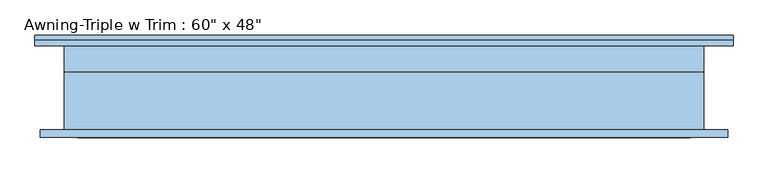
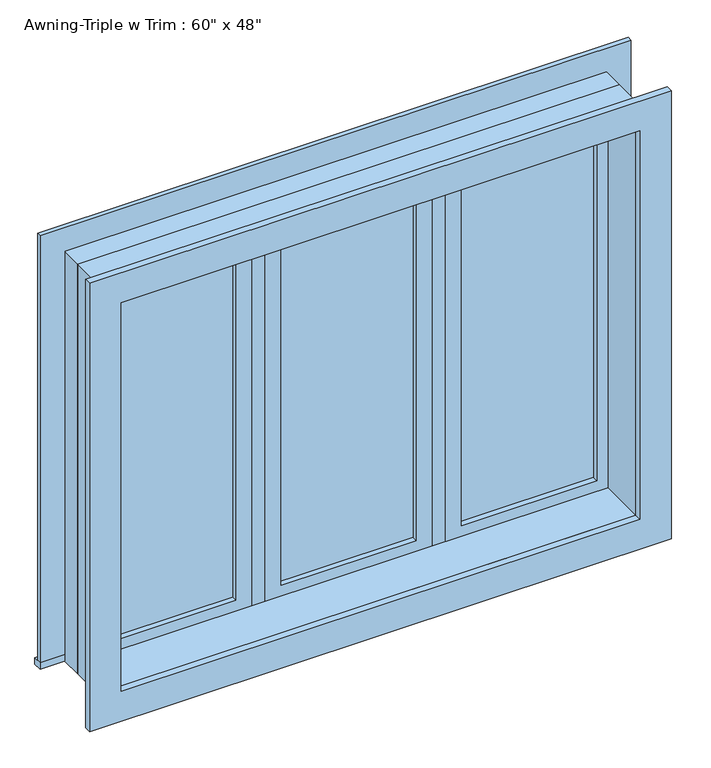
"""IFC4 building model written with IfcOpenShell, lengths in millimetres: window geometry."""

import ifcopenshell
import ifcopenshell.guid

model = None  # the IFC model being written
_history = None  # IfcOwnerHistory: only IFC2X3 demands one
_inside = {}  # id of a spatial element -> (the spatial element, [elements in it])
_under = {}  # id of a project, library or spatial element -> (it, [spatial elements below it])
_declared = {}  # id of a project -> (the project, [libraries it declares])
_typed = {}  # id of a type object -> (the type object, [elements of that type])
_made_of = {}  # id of a material, layer set ... -> (it, [elements and type objects made of it])


def new_model(schema):
    """Start an empty IFC model of exactly this schema.

    Asked for "IFC4X3", IfcOpenShell would pick the latest addendum, in which some entities
    have other attributes; the version numbers below select the first issue.
    IFC2X3 requires an IfcOwnerHistory on every rooted entity: one is made here for all.
    """
    global model, _history
    if schema == "IFC4X3":
        model = ifcopenshell.file(schema_version=(4, 3, 0, 0))
    else:
        model = ifcopenshell.file(schema=schema)
    _inside.clear()
    _under.clear()
    _declared.clear()
    _typed.clear()
    _made_of.clear()
    _history = None
    if model.schema == "IFC2X3":
        org = make("IfcOrganization", Name="unknown")
        user = make(
            "IfcPersonAndOrganization",
            ThePerson=make("IfcPerson", FamilyName="unknown"),
            TheOrganization=org,
        )
        app = make(
            "IfcApplication",
            ApplicationDeveloper=org,
            Version="unknown",
            ApplicationFullName="unknown",
            ApplicationIdentifier="unknown",
        )
        _history = make(
            "IfcOwnerHistory",
            OwningUser=user,
            OwningApplication=app,
            ChangeAction="ADDED",
            CreationDate=0,
        )
    return model


def make(cls, **values):
    """One entity of the class cls with the attributes given. An attribute that is None is left unset."""
    return model.create_entity(
        cls, **{name: value for name, value in values.items() if value is not None}
    )


def rooted(cls, **values):
    """An entity with a GlobalId (a new one), such as an element, a storey or a relation."""
    return make(cls, GlobalId=ifcopenshell.guid.new(), OwnerHistory=_history, **values)


def si_unit(unit_type, name, prefix=None):
    """IfcSIUnit, for example si_unit("LENGTHUNIT", "METRE", prefix="MILLI")."""
    return make("IfcSIUnit", UnitType=unit_type, Prefix=prefix, Name=name)


def assignment(units):
    """IfcUnitAssignment: the units of a project."""
    return None if units is None else make("IfcUnitAssignment", Units=units)


def point(xyz):
    """IfcCartesianPoint."""
    return None if xyz is None else make("IfcCartesianPoint", Coordinates=xyz)


def direction(xyz):
    """IfcDirection."""
    return None if xyz is None else make("IfcDirection", DirectionRatios=xyz)


def frame(location, z_axis=None, x_axis=None):
    """IfcAxis2Placement3D, a coordinate frame: its origin and axes. An axis left out is left unset."""
    return make(
        "IfcAxis2Placement3D",
        Location=point(location),
        Axis=direction(z_axis),
        RefDirection=direction(x_axis),
    )


def origin():
    """The frame at (0, 0, 0) with its axes left unset."""
    return frame((0.0, 0.0, 0.0))


def place(relative_to, where):
    """IfcLocalPlacement: puts the frame where relative to a parent placement (None: the world)."""
    return make(
        "IfcLocalPlacement", PlacementRelTo=relative_to, RelativePlacement=where
    )


def context(
    kind, dimensions, precision=None, world=None, true_north=None, identifier=None
):
    """IfcGeometricRepresentationContext, for example the 3D "Model" context."""
    return make(
        "IfcGeometricRepresentationContext",
        ContextIdentifier=identifier,
        ContextType=kind,
        CoordinateSpaceDimension=dimensions,
        Precision=precision,
        WorldCoordinateSystem=world,
        TrueNorth=true_north,
    )


def project(units=None, contexts=None):
    """IfcProject with its units and contexts."""
    return rooted(
        "IfcProject",
        Name="project",
        RepresentationContexts=contexts,
        UnitsInContext=assignment(units),
    )


def spatial(cls, under=None, at=None, **own):
    """A site, building, storey or space (cls), placed at a placement, below another one or the project."""
    s = rooted(cls, ObjectPlacement=at, **own)
    if under is not None:
        _under.setdefault(under.id(), (under, []))[1].append(s)
    return s


def polyline(points):
    """IfcPolyline through the points."""
    return make("IfcPolyline", Points=[point(p) for p in points])


def outline(outer, holes=None, kind="AREA"):
    """IfcArbitraryClosedProfileDef: a profile drawn as a closed curve; with holes, ...WithVoids."""
    if holes is None:
        return make("IfcArbitraryClosedProfileDef", ProfileType=kind, OuterCurve=outer)
    return make(
        "IfcArbitraryProfileDefWithVoids",
        ProfileType=kind,
        OuterCurve=outer,
        InnerCurves=holes,
    )


def extrude(swept, where, along, depth):
    """IfcExtrudedAreaSolid: the profile swept, set in the frame where, extruded along a direction by depth."""
    return make(
        "IfcExtrudedAreaSolid",
        SweptArea=swept,
        Position=where,
        ExtrudedDirection=direction(along),
        Depth=depth,
    )


def shape(context_of_items, identifier, shape_type, items):
    """IfcShapeRepresentation: the items that make up one representation, for example the "Body"."""
    return make(
        "IfcShapeRepresentation",
        ContextOfItems=context_of_items,
        RepresentationIdentifier=identifier,
        RepresentationType=shape_type,
        Items=items,
    )


def source(mapping_origin, context_of_items, identifier, shape_type, items):
    """IfcRepresentationMap: a shape defined once, which mapped items show again and again."""
    return make(
        "IfcRepresentationMap",
        MappingOrigin=mapping_origin,
        MappedRepresentation=shape(context_of_items, identifier, shape_type, items),
    )


def transform(
    local_origin,
    x_axis=None,
    y_axis=None,
    z_axis=None,
    scale=None,
    scale2=None,
    scale3=None,
    uniform=True,
):
    """IfcCartesianTransformationOperator3D, or its non-uniform kind. x_axis, y_axis, z_axis: its Axis1, 2, 3."""
    if uniform:
        return make(
            "IfcCartesianTransformationOperator3D",
            Axis1=direction(x_axis),
            Axis2=direction(y_axis),
            LocalOrigin=point(local_origin),
            Scale=scale,
            Axis3=direction(z_axis),
        )
    return make(
        "IfcCartesianTransformationOperator3DnonUniform",
        Axis1=direction(x_axis),
        Axis2=direction(y_axis),
        LocalOrigin=point(local_origin),
        Scale=scale,
        Axis3=direction(z_axis),
        Scale2=scale2,
        Scale3=scale3,
    )


def mapped(mapping_source, mapping_target):
    """IfcMappedItem: shows the shape of a source again, moved by a transform."""
    return make(
        "IfcMappedItem", MappingSource=mapping_source, MappingTarget=mapping_target
    )


def made_of(thing, what):
    """Note that an element or type object is made of a material, layer set ...; save() writes the relation."""
    if what is not None:
        _made_of.setdefault(what.id(), (what, []))[1].append(thing)
    return thing


def element(
    cls,
    number,
    at=None,
    inside=None,
    cuts=None,
    type_object=None,
    material=None,
    context=None,
    identifier="Body",
    shape_type=None,
    held_by="IfcProductDefinitionShape",
    body=None,
    shapes=None,
    **own,
):
    """One element of the class cls, such as IfcWall. Its Tag is "e" and its number.

    at: its placement. inside: the storey or other place that contains it. cuts: it is an
    opening in that element (IfcRelVoidsElement). A single representation is given by context,
    identifier, shape_type and body (its items); several are given by shapes. held_by: the class
    of the entity that holds the representations. save() writes the other relations.
    """
    e = rooted(cls, Tag="e%d" % number, ObjectPlacement=at, **own)
    if body is not None:
        shapes = [shape(context, identifier, shape_type, body)]
    if shapes is not None:
        e.Representation = make(held_by, Representations=shapes)
    if inside is not None:
        _inside.setdefault(inside.id(), (inside, []))[1].append(e)
    if cuts is not None:
        rooted(
            "IfcRelVoidsElement", RelatingBuildingElement=cuts, RelatedOpeningElement=e
        )
    if type_object is not None:
        _typed.setdefault(type_object.id(), (type_object, []))[1].append(e)
    return made_of(e, material)


def aggregate(whole, parts):
    """IfcRelAggregates: a whole, such as a stair, and the parts it consists of."""
    return rooted("IfcRelAggregates", RelatingObject=whole, RelatedObjects=parts)


def save(model, path):
    """Write the relations noted so far, then the file.

    IfcRelAggregates (storeys below a building ...), IfcRelContainedInSpatialStructure (elements
    in a storey), IfcRelDefinesByType, IfcRelAssociatesMaterial and IfcRelDeclares: one each for
    every whole, place, type object, material and project.
    """
    for whole, parts in _under.values():
        aggregate(whole, parts)
    for where, things in _inside.values():
        rooted(
            "IfcRelContainedInSpatialStructure",
            RelatedElements=things,
            RelatingStructure=where,
        )
    for kind, things in _typed.values():
        rooted("IfcRelDefinesByType", RelatedObjects=things, RelatingType=kind)
    for what, things in _made_of.values():
        rooted("IfcRelAssociatesMaterial", RelatedObjects=things, RelatingMaterial=what)
    for by, libraries in _declared.values():
        rooted("IfcRelDeclares", RelatingContext=by, RelatedDefinitions=libraries)
    model.write(path)


def window_7d28f3e4(model_context):
    return source(origin(), model_context, "Body", "SweptSolid", [
        extrude(outline(polyline([(-831.85, 125.4), (831.85, 125.4), (831.85, 100.0), (-831.85, 100.0), (-831.85, 125.4)])), frame((0.0, 0.0, 914.4), z_axis=(0.0, 0.0, 1.0), x_axis=(1.0, 0.0, 0.0)), (0.0, 0.0, 1.0), 19.05),
        extrude(outline(polyline([(2114.55, -742.95), (2114.55, 742.95), (933.45, 742.95), (933.45, 831.85), (2203.45, 831.85), (2203.45, -831.85), (933.45, -831.85), (933.45, -742.95), (2114.55, -742.95)])), frame((0.0, 100.0, 0.0), z_axis=(0.0, 1.0, 0.0), x_axis=(0.0, 0.0, 1.0)), (0.0, 0.0, 1.0), 12.7),
        extrude(outline(polyline([(2190.75, 819.15), (2190.75, -819.15), (857.25, -819.15), (857.25, 819.15), (2190.75, 819.15)]), holes=[polyline([(2101.85, 730.25), (946.15, 730.25), (946.15, -730.25), (2101.85, -730.25), (2101.85, 730.25)])]), frame((0.0, -119.05, 0.0), z_axis=(0.0, 1.0, 0.0), x_axis=(0.0, 0.0, 1.0)), (0.0, 0.0, 1.0), 19.05),
        extrude(outline(polyline([(698.5, 52.375), (317.5, 52.375), (317.5, 65.075), (698.5, 65.075), (698.5, 52.375)])), frame((0.0, 0.0, 977.9), z_axis=(0.0, 0.0, 1.0), x_axis=(1.0, 0.0, 0.0)), (0.0, 0.0, 1.0), 1092.2),
        extrude(outline(polyline([(-317.5, 52.375), (-698.5, 52.375), (-698.5, 65.075), (-317.5, 65.075), (-317.5, 52.375)])), frame((0.0, 0.0, 977.9), z_axis=(0.0, 0.0, 1.0), x_axis=(1.0, 0.0, 0.0)), (0.0, 0.0, 1.0), 1092.2),
        extrude(outline(polyline([(190.5, 52.375), (-190.5, 52.375), (-190.5, 65.075), (190.5, 65.075), (190.5, 52.375)])), frame((0.0, 0.0, 977.9), z_axis=(0.0, 0.0, 1.0), x_axis=(1.0, 0.0, 0.0)), (0.0, 0.0, 1.0), 1092.2),
        extrude(outline(polyline([(2114.55, 273.05), (933.45, 273.05), (933.45, 742.95), (2114.55, 742.95), (2114.55, 273.05)]), holes=[polyline([(2070.1, 317.5), (2070.1, 698.5), (977.9, 698.5), (977.9, 317.5), (2070.1, 317.5)])]), frame((0.0, 36.5, 0.0), z_axis=(0.0, 1.0, 0.0), x_axis=(0.0, 0.0, 1.0)), (0.0, 0.0, 1.0), 44.45),
        extrude(outline(polyline([(2114.55, -742.95), (933.45, -742.95), (933.45, -273.05), (2114.55, -273.05), (2114.55, -742.95)]), holes=[polyline([(2070.1, -698.5), (2070.1, -317.5), (977.9, -317.5), (977.9, -698.5), (2070.1, -698.5)])]), frame((0.0, 36.5, 0.0), z_axis=(0.0, 1.0, 0.0), x_axis=(0.0, 0.0, 1.0)), (0.0, 0.0, 1.0), 44.45),
        extrude(outline(polyline([(2114.55, -234.95), (933.45, -234.95), (933.45, 234.95), (2114.55, 234.95), (2114.55, -234.95)]), holes=[polyline([(2070.1, -190.5), (2070.1, 190.5), (977.9, 190.5), (977.9, -190.5), (2070.1, -190.5)])]), frame((0.0, 36.5, 0.0), z_axis=(0.0, 1.0, 0.0), x_axis=(0.0, 0.0, 1.0)), (0.0, 0.0, 1.0), 44.45),
        extrude(outline(polyline([(2133.6, -762.0), (914.4, -762.0), (914.4, 762.0), (2133.6, 762.0), (2133.6, -762.0)]), holes=[polyline([(2101.85, -730.25), (2101.85, 730.25), (946.15, 730.25), (946.15, -730.25), (2101.85, -730.25)])]), frame((0.0, -100.0, 0.0), z_axis=(0.0, 1.0, 0.0), x_axis=(0.0, 0.0, 1.0)), (0.0, 0.0, 1.0), 136.5),
        extrude(outline(polyline([(2133.6, 762.0), (2133.6, -762.0), (914.4, -762.0), (914.4, 762.0), (2133.6, 762.0)]), holes=[polyline([(2114.55, -273.05), (933.45, -273.05), (933.45, -742.95), (2114.55, -742.95), (2114.55, -273.05)]), polyline([(933.45, 742.95), (933.45, 273.05), (2114.55, 273.05), (2114.55, 742.95), (933.45, 742.95)]), polyline([(933.45, 234.95), (933.45, -234.95), (2114.55, -234.95), (2114.55, 234.95), (933.45, 234.95)])]), frame((0.0, 36.5, 0.0), z_axis=(0.0, 1.0, 0.0), x_axis=(0.0, 0.0, 1.0)), (0.0, 0.0, 1.0), 63.5),
    ])


if __name__ == "__main__":
    model = new_model("IFC4")
    model_context = context("Model", 3, world=origin())
    ifc_project = project(units=[si_unit("LENGTHUNIT", "METRE", prefix="MILLI")], contexts=[model_context])
    site = spatial("IfcSite", under=ifc_project)
    building = spatial("IfcBuilding", under=site)
    placement = place(None, origin())
    window_shape = window_7d28f3e4(model_context)
    element("IfcWindow", 1, ObjectType="Awning-Triple w Trim : 60\" x 48\"", at=placement, inside=building, context=model_context, shape_type="MappedRepresentation", body=[
        mapped(window_shape, transform((0.0, 0.0, 0.0), x_axis=(1.0, 0.0, 0.0), y_axis=(0.0, 1.0, 0.0), z_axis=(0.0, 0.0, 1.0))),
    ])
    save(model, "model.ifc")
